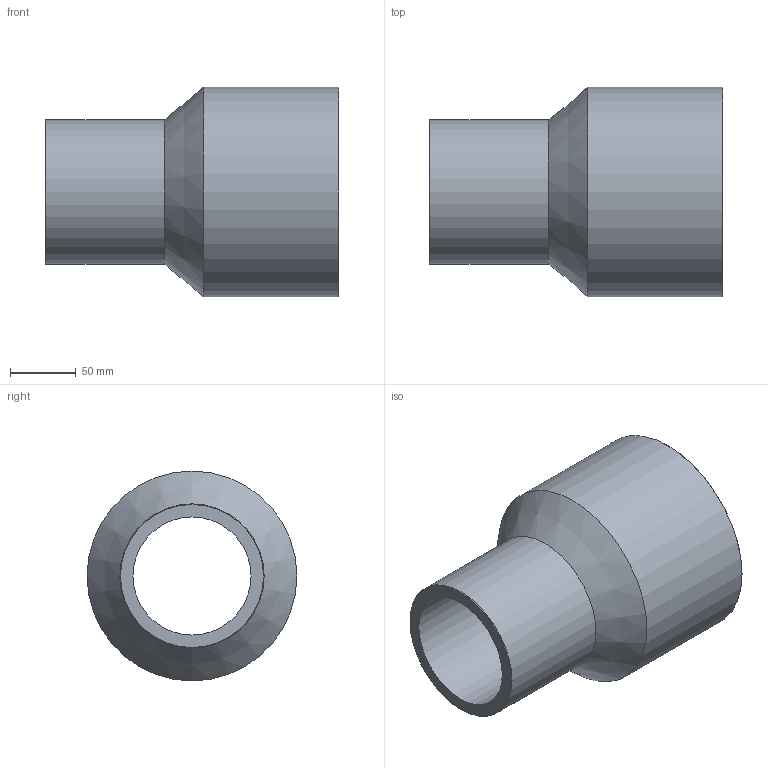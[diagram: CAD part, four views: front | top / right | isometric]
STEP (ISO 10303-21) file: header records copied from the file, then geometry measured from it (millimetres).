
FILE_DESCRIPTION(/* description */ ('Unknown'),/* implementation_level */ '2;1');
FILE_NAME(/* name */ 'RP160110C',/* time_stamp */ '2021-09-17T15:16:04+02:00',/* author */ ('Unknown'),/* organization */ ('Unknown'),/* preprocessor_version */ 'ST-DEVELOPER v16.7',/* originating_system */ 'Solid Edge',/* authorisation */ 'Unknown');
FILE_SCHEMA (('AUTOMOTIVE_DESIGN {1 0 10303 214 3 1 1}'));
Length unit declared in the file: millimetre
Products named in the file (1): RP160110C
Bounding box: 224 x 160 x 160 mm (x, y, z)
Volume: 1172743.4 mm3; surface area: 189082.7 mm2
Topology: 1 solids, 1 shells, 10 faces, 19 edges, 11 vertices
Faces by surface type: cylinder 4, cone 4, plane 2
Full cylindrical faces by diameter (mm): 90 x1, 110 x1, 130.8 x1, 160 x1
Entity records: 238 total; most frequent: DIRECTION 42, CARTESIAN_POINT 31, AXIS2_PLACEMENT_3D 21, ORIENTED_EDGE 20, EDGE_LOOP 20, FACE_BOUND 20, EDGE_CURVE 10, VERTEX_POINT 10
